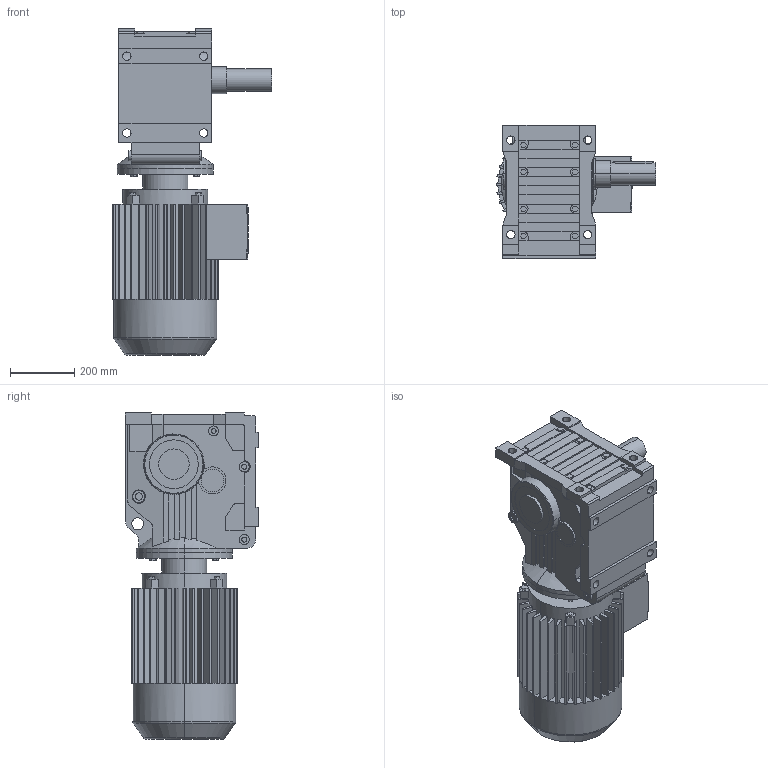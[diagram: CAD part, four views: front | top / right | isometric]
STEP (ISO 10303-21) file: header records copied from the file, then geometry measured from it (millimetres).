
FILE_DESCRIPTION(('Open CASCADE Model'),'2;1');
FILE_NAME('Open CASCADE Shape Model','2021-06-01T15:54:05',('Author'),( 'Open CASCADE'),'Open CASCADE STEP processor 6.3','Open CASCADE 6.3' ,'Unknown');
FILE_SCHEMA(('AUTOMOTIVE_DESIGN_CC2 { 1 2 10303 214 -1 1 5 4 }'));
Length unit declared in the file: millimetre
Products named in the file (4): 1_K97DV180-A; K37‵157_97.step; 萇儂_300-DV180-581-737-331-258.step; す瑩妗陑粣K_97.step
Assembly tree (3 placements, depth 2):
  1_K97DV180-A
    K37‵157_97.step
    萇儂_300-DV180-581-737-331-258.step
    す瑩妗陑粣K_97.step
Bounding box: 497.5 x 417 x 1018 mm (x, y, z)
Volume: 78937664 mm3; surface area: 2609639.7 mm2
Topology: 3 solids, 3 shells, 836 faces, 2204 edges, 1431 vertices
Faces by surface type: plane 582, cylinder 231, cone 15, torus 8
Entity records: 57836 total; most frequent: CARTESIAN_POINT 15955, DIRECTION 7217, ORIENTED_EDGE 4404, PCURVE 4404, DEFINITIONAL_REPRESENTATION 4404, LINE 3932, VECTOR 3932, EDGE_CURVE 2202
